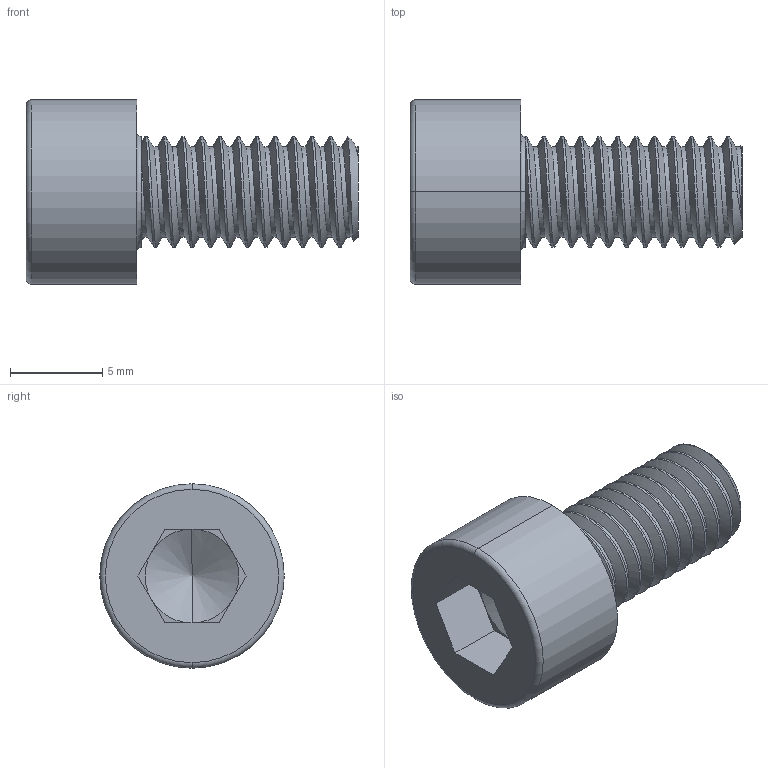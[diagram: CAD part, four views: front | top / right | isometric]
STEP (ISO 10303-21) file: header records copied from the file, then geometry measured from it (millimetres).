
FILE_DESCRIPTION (( 'STEP AP203' ), '1' );
FILE_NAME ('Ì6õ12_DIN912.STEP', '2025-11-19T08:02:13', ( '' ), ( '' ), 'SwSTEP 2.0', 'SolidWorks 2022', '' );
FILE_SCHEMA (( 'CONFIG_CONTROL_DESIGN' ));
Length unit declared in the file: millimetre
Products named in the file (1): М6х12_DIN912
Bounding box: 18 x 10 x 10 mm (x, y, z)
Volume: 666.3 mm3; surface area: 743.4 mm2
Topology: 1 solids, 1 shells, 54 faces, 140 edges, 88 vertices
Faces by surface type: cylinder 25, plane 16, cone 5, torus 4, bspline 4
Entity records: 4104 total; most frequent: CARTESIAN_POINT 2887, ORIENTED_EDGE 276, DIRECTION 205, EDGE_CURVE 138, VERTEX_POINT 88, AXIS2_PLACEMENT_3D 76, EDGE_LOOP 56, FACE_OUTER_BOUND 54
